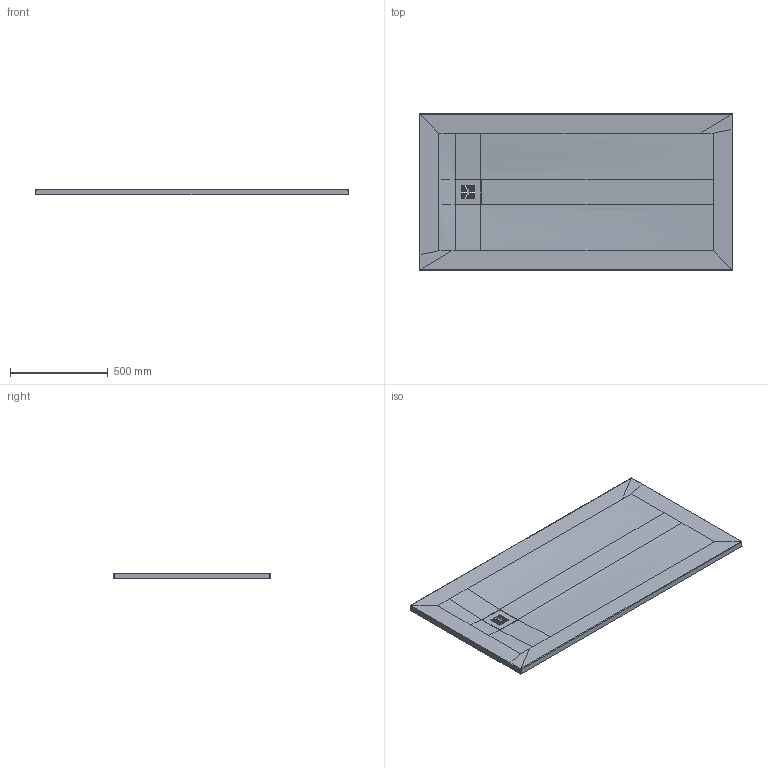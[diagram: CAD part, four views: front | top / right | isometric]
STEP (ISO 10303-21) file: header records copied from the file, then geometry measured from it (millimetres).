
FILE_DESCRIPTION(/* description */ (''),/* implementation_level */ '2;1');
FILE_NAME(/* name */ '720284',/* time_stamp */ '2022-02-10T08:57:06+01:00',/* author */ (''),/* organization */ (''),/* preprocessor_version */ 'ST-DEVELOPER v15',/* originating_system */ '',/* authorisation */ '');
FILE_SCHEMA (('AUTOMOTIVE_DESIGN'));
Length unit declared in the file: millimetre
Products named in the file (1): Document
Bounding box: 1600 x 800 x 30.02 mm (x, y, z)
Volume: 21067.4 mm3; surface area: 1428656.7 mm2
Topology: 1 solids, 2 shells, 118 faces, 324 edges, 208 vertices
Faces by surface type: bspline 64, plane 54
Entity records: 7891 total; most frequent: CARTESIAN_POINT 5806, ORIENTED_EDGE 616, EDGE_CURVE 324, B_SPLINE_CURVE_WITH_KNOTS 304, VERTEX_POINT 208, EDGE_LOOP 138, ADVANCED_FACE 118, FACE_OUTER_BOUND 118
